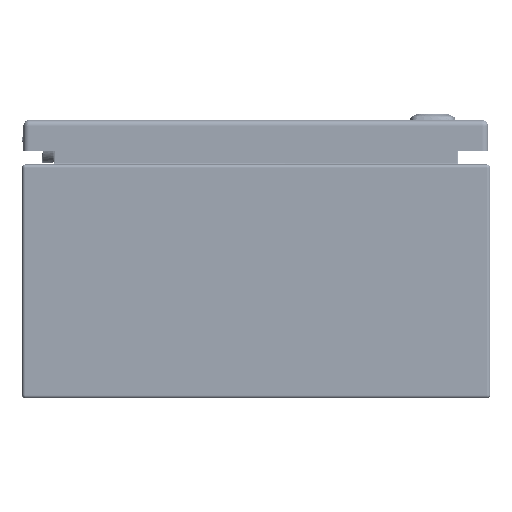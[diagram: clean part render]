
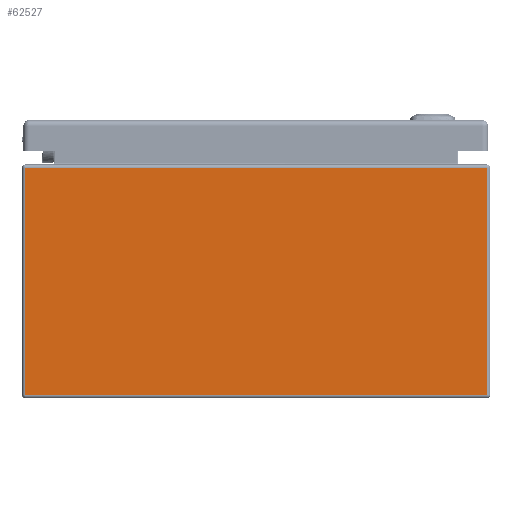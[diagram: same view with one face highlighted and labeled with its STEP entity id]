
A CAD part, front view. The second image highlights one B-rep face of the part: STEP entity #62527.
In plain terms, the highlighted planar face has unit normal (0, -1, 0).
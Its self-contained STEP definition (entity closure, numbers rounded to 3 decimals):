
#6260=LINE('',#87308,#10037);
#6267=LINE('',#87323,#10044);
#6269=LINE('',#87330,#10046);
#6271=LINE('',#87339,#10048);
#10037=VECTOR('',#72768,0.394);
#10044=VECTOR('',#72781,0.394);
#10046=VECTOR('',#72789,0.394);
#10048=VECTOR('',#72801,0.394);
#14801=FACE_OUTER_BOUND('',#18663,.T.);
#18663=EDGE_LOOP('',(#41598,#41599,#41600,#41601));
#25030=VERTEX_POINT('',#87278);
#25037=VERTEX_POINT('',#87304);
#25042=VERTEX_POINT('',#87322);
#25044=VERTEX_POINT('',#87328);
#31431=EDGE_CURVE('',#25030,#25037,#6260,.T.);
#31438=EDGE_CURVE('',#25037,#25042,#6267,.T.);
#31442=EDGE_CURVE('',#25044,#25030,#6269,.T.);
#31447=EDGE_CURVE('',#25044,#25042,#6271,.T.);
#41598=ORIENTED_EDGE('',*,*,#31431,.F.);
#41599=ORIENTED_EDGE('',*,*,#31442,.F.);
#41600=ORIENTED_EDGE('',*,*,#31447,.T.);
#41601=ORIENTED_EDGE('',*,*,#31438,.F.);
#61205=PLANE('',#67263);
#62527=ADVANCED_FACE('',(#14801),#61205,.F.);
#67263=AXIS2_PLACEMENT_3D('',#87350,#72815,#72816);
#72768=DIRECTION('',(1.,0.,0.));
#72781=DIRECTION('',(0.,0.,-1.));
#72789=DIRECTION('',(0.,0.,1.));
#72801=DIRECTION('',(1.,0.,0.));
#72815=DIRECTION('center_axis',(0.,1.,0.));
#72816=DIRECTION('ref_axis',(0.,0.,1.));
#87278=CARTESIAN_POINT('',(-5.916,-8.,5.916));
#87304=CARTESIAN_POINT('',(5.916,-8.,5.916));
#87308=CARTESIAN_POINT('',(2.979,-8.,5.916));
#87322=CARTESIAN_POINT('',(5.916,-8.,0.084));
#87323=CARTESIAN_POINT('',(5.916,-8.,3.));
#87328=CARTESIAN_POINT('',(-5.916,-8.,0.084));
#87330=CARTESIAN_POINT('',(-5.916,-8.,3.));
#87339=CARTESIAN_POINT('',(-2.958,-8.,0.084));
#87350=CARTESIAN_POINT('Origin',(0.,-8.,3.));
